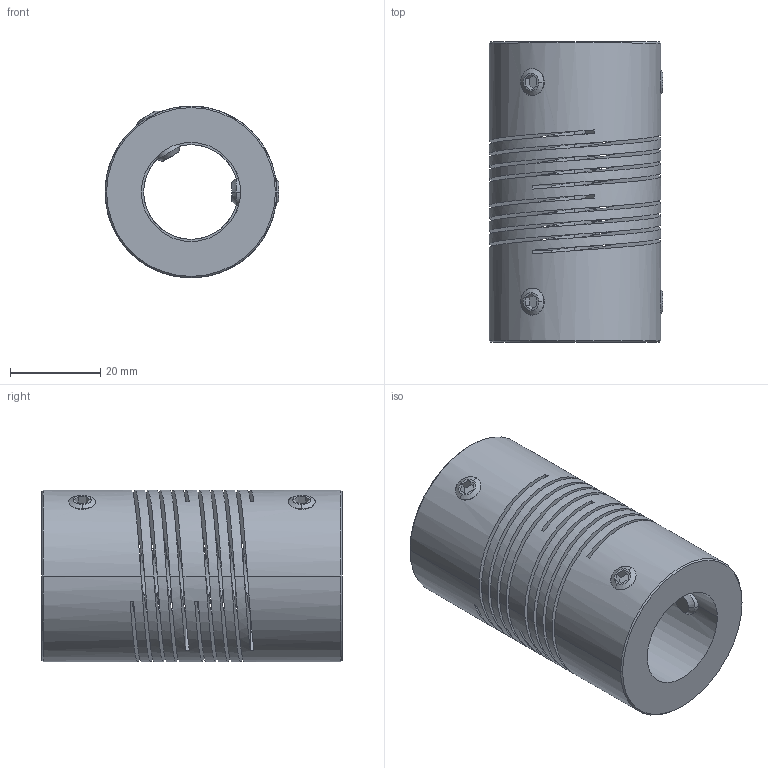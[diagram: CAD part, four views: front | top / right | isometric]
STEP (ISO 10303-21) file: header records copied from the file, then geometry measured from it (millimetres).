
FILE_DESCRIPTION((''),'2;1');
FILE_NAME('702_38_ASM','2006-12-06T',('Gary Melling'),(''),'PRO/ENGINEER BY PARAMETRIC TECHNOLOGY CORPORATION, 2006240','PRO/ENGINEER BY PARAMETRIC TECHNOLOGY CORPORATION, 2006240','');
FILE_SCHEMA(('CONFIG_CONTROL_DESIGN'));
Length unit declared in the file: millimetre
Products named in the file (3): 702_38; GS_6M; 702_38_ASM
Assembly tree (5 placements, depth 2):
  702_38_ASM
    702_38
    GS_6M  x4
Bounding box: 38.55 x 66.7 x 38.1 mm (x, y, z)
Volume: 46335.1 mm3; surface area: 28129.3 mm2
Topology: 5 solids, 5 shells, 132 faces, 364 edges, 232 vertices
Faces by surface type: plane 52, cylinder 48, cone 20, bspline 12
Entity records: 5487 total; most frequent: CARTESIAN_POINT 3188, ORIENTED_EDGE 536, DIRECTION 354, EDGE_CURVE 268, VERTEX_POINT 172, VECTOR 132, LINE 132, AXIS2_PLACEMENT_3D 111
